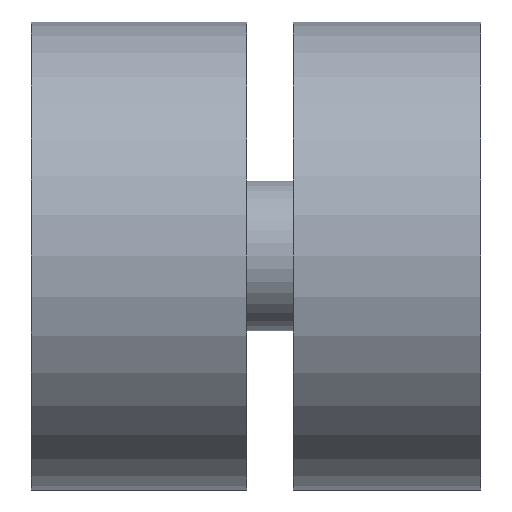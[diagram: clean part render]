
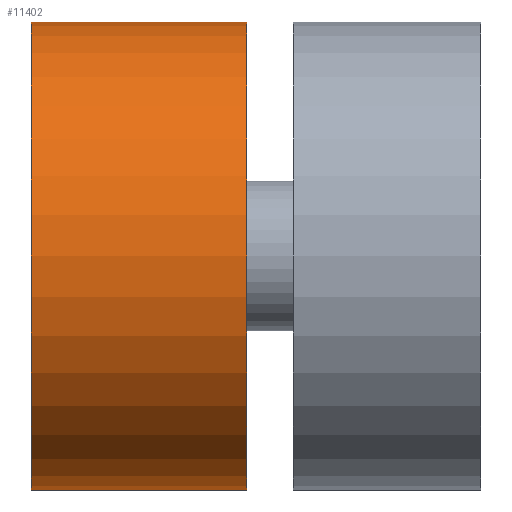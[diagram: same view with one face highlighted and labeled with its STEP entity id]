
A CAD part, front view. The second image highlights one B-rep face of the part: STEP entity #11402.
In plain terms, the highlighted cylindrical face has radius 25 mm (diameter 50 mm), a partial arc.
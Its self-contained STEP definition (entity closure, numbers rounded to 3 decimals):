
#34=CARTESIAN_POINT('',(-28.,0.,0.));
#35=DIRECTION('',(-1.,0.,0.));
#36=DIRECTION('',(0.,0.,-1.));
#37=AXIS2_PLACEMENT_3D('',#34,#35,#36);
#174=DIRECTION('',(-1.,0.,0.));
#175=VECTOR('',#174,23.);
#176=CARTESIAN_POINT('',(-5.,0.,-25.));
#177=LINE('',#176,#175);
#178=DIRECTION('',(-1.,0.,0.));
#179=VECTOR('',#178,23.);
#180=CARTESIAN_POINT('',(-5.,0.,25.));
#181=LINE('',#180,#179);
#182=CARTESIAN_POINT('',(-5.,0.,0.));
#183=DIRECTION('',(-1.,0.,0.));
#184=DIRECTION('',(0.,0.,-1.));
#185=AXIS2_PLACEMENT_3D('',#182,#183,#184);
#10641=CARTESIAN_POINT('',(-5.,0.,-25.));
#10642=CARTESIAN_POINT('',(-28.,0.,-25.));
#10643=VERTEX_POINT('',#10641);
#10644=VERTEX_POINT('',#10642);
#10657=CARTESIAN_POINT('',(-5.,0.,25.));
#10658=CARTESIAN_POINT('',(-28.,0.,25.));
#10659=VERTEX_POINT('',#10657);
#10660=VERTEX_POINT('',#10658);
#11390=CARTESIAN_POINT('',(-30.4,0.,0.));
#11391=DIRECTION('',(1.,0.,0.));
#11392=DIRECTION('',(0.,0.,1.));
#11393=AXIS2_PLACEMENT_3D('',#11390,#11391,#11392);
#11394=CYLINDRICAL_SURFACE('',#11393,25.);
#11395=ORIENTED_EDGE('',*,*,#11374,.T.);
#11396=ORIENTED_EDGE('',*,*,#11328,.T.);
#11397=ORIENTED_EDGE('',*,*,#11378,.F.);
#11399=ORIENTED_EDGE('',*,*,#11398,.F.);
#11400=EDGE_LOOP('',(#11395,#11396,#11397,#11399));
#11401=FACE_OUTER_BOUND('',#11400,.F.);
#38=CIRCLE('',#37,25.);
#186=CIRCLE('',#185,25.);
#11328=EDGE_CURVE('',#10644,#10660,#38,.T.);
#11374=EDGE_CURVE('',#10643,#10644,#177,.T.);
#11378=EDGE_CURVE('',#10659,#10660,#181,.T.);
#11398=EDGE_CURVE('',#10643,#10659,#186,.T.);
#11402=ADVANCED_FACE('',(#11401),#11394,.T.);
